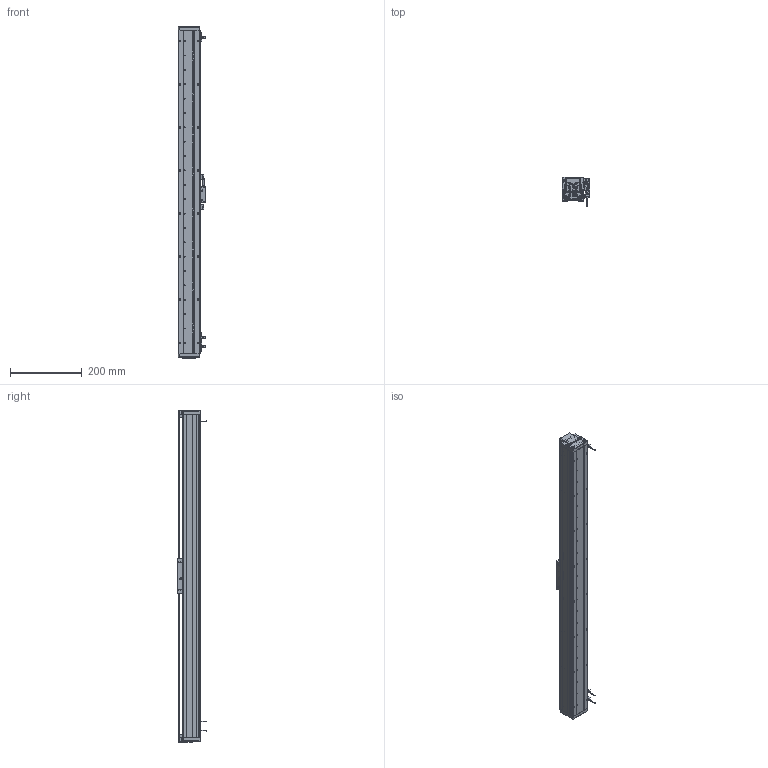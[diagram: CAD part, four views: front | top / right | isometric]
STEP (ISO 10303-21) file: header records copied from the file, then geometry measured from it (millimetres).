
FILE_DESCRIPTION (( 'STEP AP203' ), '1' );
FILE_NAME ('DA-A60-B1-T760-C010-0.2 眻盄萇儂.STEP', '2025-08-13T01:59:50', ( '' ), ( '' ), 'SwSTEP 2.0', 'SolidWorks 2019', '' );
FILE_SCHEMA (( 'CONFIG_CONTROL_DESIGN' ));
Length unit declared in the file: millimetre
Products named in the file (21): 葩璃 PM-T45^DA-A60-B1-T-C010-0.2-N 眻盄萇儂; 复件 DA60-B1-GT-00 滑块钢轨^DA60-YT-B1-HT-B-01 一体化滑动台板; DA60-B1-HT-B-03 賑雄怢啣; 葩璃 DMT-010 1米m 0.2M^DA-A60-B1-T-C010-0.2-N 眻盄萇儂; 复件 DA60-XJ-00 橡胶挡块^DA-A60-B1-T-C010-0.2-N 直线电机; 复件 纯铜油杯 6x6mm^AU60-V 滚珠滑台; 复件 XD-U-02  磁栅尺^DA-A60-B1-T-C010-0.2-N 直线电机; DA-A60-B1-T760-C010-0.2  眻盄萇儂; 复件 DA60-DG-H-N-00 端盖^DA-A60-B1-T-C010-0.2-N 直线电机; AU60-L 菁釱絳寢; 复件 六角薄螺母 M3^DA-A60-B1-T-C010-0.2-N 直线电机(GB_FASTENER_NUT_STNAB M3-C); 葩璃 AKM01-W030-TRL^DA-A60-B1-T-C010-0.2-N 眻盄萇儂; 复件 DA-A60-GYP-DMT-00 光电感应片^DA-A60-B1-T-C010-0.2-N 直线电机(默认); AU60-V 幗紩賑怢; IU-AU60-L-00 菁釱(900); DA60-T-002-00  裔啣; DA60-YT-B1-HT-B-01 珨极趙賑雄怢啣; 复件 DA60-DMT-DTJ-00 读数头支架^DA-A60-B1-T-C010-0.2-N 直线电机; 复件 BAKM01-W030-C1-TP-0.2 直线电机动子^DA-A60-B1-T-C010-0.2-N 直线电机; 复件 DA60-GT-T-00 底座钢轨^AU60-L 底座导轨; 葩璃 DA60-HK-DP-01 結え^AU60-V 幗紩賑怢
Assembly tree (33 placements, depth 4):
  DA-A60-B1-T760-C010-0.2  眻盄萇儂
    AU60-L 菁釱絳寢
      IU-AU60-L-00 菁釱(900)
      复件 DA60-GT-T-00 底座钢轨^AU60-L 底座导轨  x2
    AU60-V 幗紩賑怢
      DA60-YT-B1-HT-B-01 珨极趙賑雄怢啣
        DA60-B1-HT-B-03 賑雄怢啣
        复件 DA60-B1-GT-00 滑块钢轨^DA60-YT-B1-HT-B-01 一体化滑动台板  x2
      葩璃 DA60-HK-DP-01 結え^AU60-V 幗紩賑怢  x2
      复件 纯铜油杯 6x6mm^AU60-V 滚珠滑台
    复件 DA-A60-GYP-DMT-00 光电感应片^DA-A60-B1-T-C010-0.2-N 直线电机(默认)  x2
    复件 DA60-DMT-DTJ-00 读数头支架^DA-A60-B1-T-C010-0.2-N 直线电机
    葩璃 DMT-010 1米m 0.2M^DA-A60-B1-T-C010-0.2-N 眻盄萇儂
    复件 BAKM01-W030-C1-TP-0.2 直线电机动子^DA-A60-B1-T-C010-0.2-N 直线电机
    复件 DA60-XJ-00 橡胶挡块^DA-A60-B1-T-C010-0.2-N 直线电机  x2
    复件 DA60-DG-H-N-00 端盖^DA-A60-B1-T-C010-0.2-N 直线电机  x2
    DA60-T-002-00  裔啣
    葩璃 AKM01-W030-TRL^DA-A60-B1-T-C010-0.2-N 眻盄萇儂
    葩璃 PM-T45^DA-A60-B1-T-C010-0.2-N 眻盄萇儂  x3
    复件 XD-U-02  磁栅尺^DA-A60-B1-T-C010-0.2-N 直线电机
    复件 六角薄螺母 M3^DA-A60-B1-T-C010-0.2-N 直线电机(GB_FASTENER_NUT_STNAB M3-C)  x6
Bounding box: 76.95 x 80 x 924 mm (x, y, z)
Volume: 1884521.9 mm3; surface area: 676739 mm2
Topology: 35 solids, 37 shells, 3001 faces, 7776 edges, 4729 vertices
Faces by surface type: cylinder 1168, plane 999, bspline 577, cone 248, torus 8, sphere 1
Entity records: 76601 total; most frequent: CARTESIAN_POINT 24540, ORIENTED_EDGE 10808, DIRECTION 9817, EDGE_CURVE 5404, AXIS2_PLACEMENT_3D 3532, VERTEX_POINT 3400, LINE 2753, VECTOR 2753
